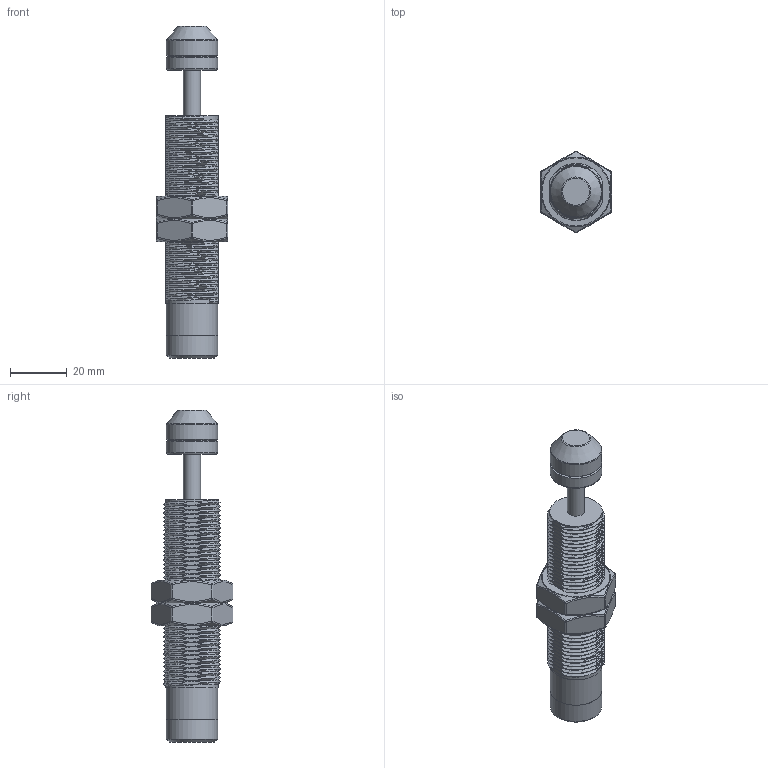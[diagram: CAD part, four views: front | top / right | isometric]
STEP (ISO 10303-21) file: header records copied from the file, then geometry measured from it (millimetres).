
FILE_DESCRIPTION(('STEP AP203'),'1');
FILE_NAME('C:/Documents and Settings/User/官帕 拳搁/KMA20-16B.stp',' ',(' '),(' '),'XStep 1.0',' ',' ');
FILE_SCHEMA(('CONFIG_CONTROL_DESIGN'));
Length unit declared in the file: metre
Products named in the file (1): Assembly180
Bounding box: 25 x 28.71 x 116.5 mm (x, y, z)
Volume: 31963.7 mm3; surface area: 20734 mm2
Topology: 9 solids, 9 shells, 203 faces, 475 edges, 291 vertices
Faces by surface type: plane 117, bspline 27, sphere 24, cylinder 21, cone 7, torus 7
Full cylindrical faces by diameter (mm): 6 x1, 12 x1, 18 x4, 18.376 x1, 18.5 x2
Entity records: 14893 total; most frequent: CARTESIAN_POINT 11072, ORIENTED_EDGE 886, DIRECTION 607, EDGE_CURVE 443, AXIS2_PLACEMENT_3D 290, VERTEX_POINT 282, EDGE_LOOP 231, B_SPLINE_CURVE_WITH_KNOTS 223
